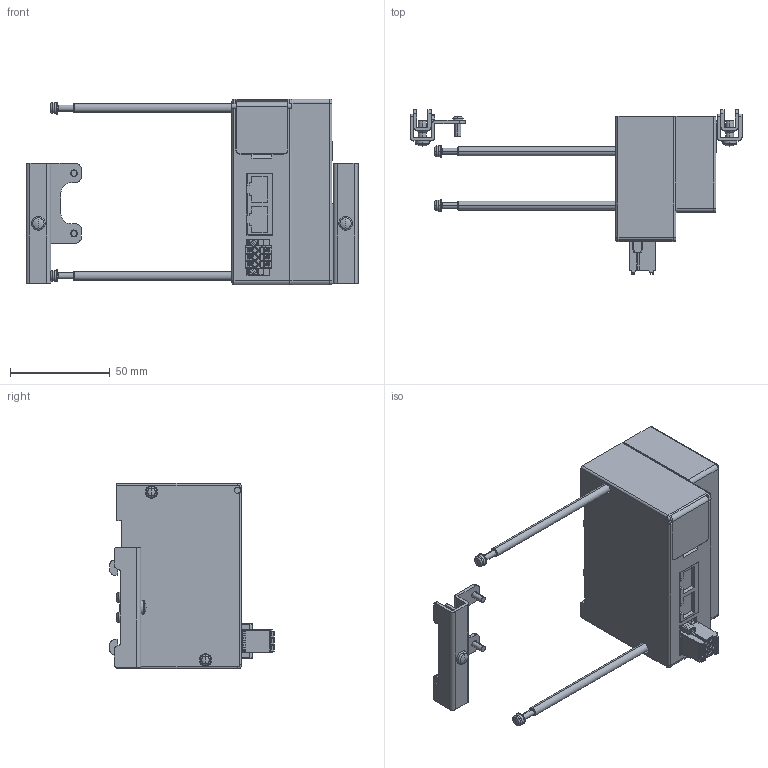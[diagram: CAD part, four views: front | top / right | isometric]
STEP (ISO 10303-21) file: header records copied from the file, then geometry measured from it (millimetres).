
FILE_DESCRIPTION( (''), '2;1');
FILE_NAME ('YS8EM3-4-DN.stp','2022-12-01T14:43:08',(''),(''),'spGate 12.6.6','','');
FILE_SCHEMA (('AUTOMOTIVE_DESIGN'));
Length unit declared in the file: millimetre
Products named in the file (3): Assembly; YS8EM3-4-DN-prt0; YS8EM3-4-DN-prt1
Assembly tree (3 placements, depth 2):
  Assembly
    YS8EM3-4-DN-prt0
    YS8EM3-4-DN-prt1  x2
Bounding box: 166 x 82.1 x 93 mm (x, y, z)
Volume: 266339.1 mm3; surface area: 47538.6 mm2
Topology: 3 solids, 3 shells, 971 faces, 2541 edges, 1629 vertices
Faces by surface type: plane 563, cylinder 310, bspline 82, sphere 16
Entity records: 43962 total; most frequent: CARTESIAN_POINT 6025, ORIENTED_EDGE 4360, DIRECTION 4124, COLOUR_RGB 3022, PRESENTATION_STYLE_ASSIGNMENT 3022, STYLED_ITEM 3022, EDGE_CURVE 2180, DRAUGHTING_PRE_DEFINED_CURVE_FONT 2180
